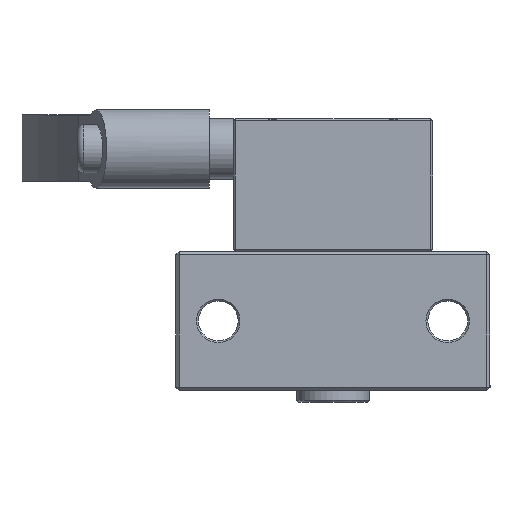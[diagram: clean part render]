
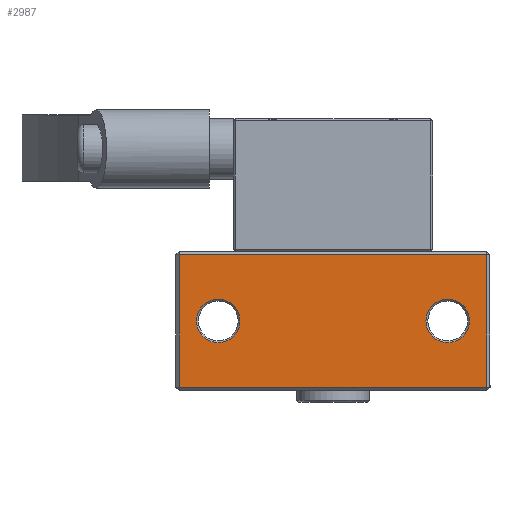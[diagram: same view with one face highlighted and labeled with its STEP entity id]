
A CAD part, front view. The second image highlights one B-rep face of the part: STEP entity #2987.
In plain terms, the highlighted planar face has unit normal (0, -1, 0).
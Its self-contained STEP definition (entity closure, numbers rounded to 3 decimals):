
#139 = CIRCLE ( 'NONE', #1693, 3.6 ) ;
#163 = LINE ( 'NONE', #5738, #3420 ) ;
#317 = DIRECTION ( 'NONE',  ( 0., 0., -1. ) ) ;
#416 = FACE_OUTER_BOUND ( 'NONE', #3173, .T. ) ;
#626 = EDGE_CURVE ( 'NONE', #4319, #5006, #8125, .T. ) ;
#703 = VERTEX_POINT ( 'NONE', #11001 ) ;
#887 = EDGE_LOOP ( 'NONE', ( #4115, #3374 ) ) ;
#1038 = AXIS2_PLACEMENT_3D ( 'NONE', #3991, #2067, #4895 ) ;
#1180 = CARTESIAN_POINT ( 'NONE',  ( 19., -17., 0. ) ) ;
#1457 = VECTOR ( 'NONE', #317, 1000. ) ;
#1467 = CARTESIAN_POINT ( 'NONE',  ( -25.5, -17., 11.5 ) ) ;
#1507 = DIRECTION ( 'NONE',  ( -1., 0., 0. ) ) ;
#1651 = ORIENTED_EDGE ( 'NONE', *, *, #6679, .T. ) ;
#1693 = AXIS2_PLACEMENT_3D ( 'NONE', #2166, #11543, #1507 ) ;
#1716 = CARTESIAN_POINT ( 'NONE',  ( -25.5, -17., 11. ) ) ;
#1824 = CARTESIAN_POINT ( 'NONE',  ( 19., -17., 0. ) ) ;
#1869 = VERTEX_POINT ( 'NONE', #10087 ) ;
#2067 = DIRECTION ( 'NONE',  ( 0., 1., 0. ) ) ;
#2097 = EDGE_CURVE ( 'NONE', #5006, #4319, #4526, .T. ) ;
#2166 = CARTESIAN_POINT ( 'NONE',  ( -19., -17., 0. ) ) ;
#2342 = DIRECTION ( 'NONE',  ( 0., 0., 1. ) ) ;
#2528 = EDGE_CURVE ( 'NONE', #9815, #1869, #6814, .T. ) ;
#2565 = EDGE_CURVE ( 'NONE', #7154, #703, #10460, .T. ) ;
#2987 = ADVANCED_FACE ( 'NONE', ( #5987, #8566, #416 ), #5867, .F. ) ;
#3173 = EDGE_LOOP ( 'NONE', ( #6089, #11802, #10630, #7516 ) ) ;
#3374 = ORIENTED_EDGE ( 'NONE', *, *, #2097, .T. ) ;
#3394 = CARTESIAN_POINT ( 'NONE',  ( 19., -17., -3.6 ) ) ;
#3420 = VECTOR ( 'NONE', #6626, 1000. ) ;
#3575 = AXIS2_PLACEMENT_3D ( 'NONE', #1180, #7518, #4864 ) ;
#3753 = VECTOR ( 'NONE', #5203, 1000. ) ;
#3991 = CARTESIAN_POINT ( 'NONE',  ( 26., -17., 11.5 ) ) ;
#4092 = CARTESIAN_POINT ( 'NONE',  ( 25.5, -17., 11.5 ) ) ;
#4115 = ORIENTED_EDGE ( 'NONE', *, *, #626, .T. ) ;
#4317 = EDGE_CURVE ( 'NONE', #11159, #7154, #11667, .T. ) ;
#4319 = VERTEX_POINT ( 'NONE', #3394 ) ;
#4526 = CIRCLE ( 'NONE', #3575, 3.6 ) ;
#4602 = EDGE_CURVE ( 'NONE', #5481, #11159, #6874, .T. ) ;
#4864 = DIRECTION ( 'NONE',  ( -1., 0., 0. ) ) ;
#4895 = DIRECTION ( 'NONE',  ( 1., 0., 0. ) ) ;
#5006 = VERTEX_POINT ( 'NONE', #11889 ) ;
#5044 = CARTESIAN_POINT ( 'NONE',  ( 25.5, -17., 11. ) ) ;
#5203 = DIRECTION ( 'NONE',  ( -1., 0., 0. ) ) ;
#5481 = VERTEX_POINT ( 'NONE', #10015 ) ;
#5738 = CARTESIAN_POINT ( 'NONE',  ( 26., -17., -11. ) ) ;
#5867 = PLANE ( 'NONE',  #1038 ) ;
#5987 = FACE_BOUND ( 'NONE', #887, .T. ) ;
#5999 = DIRECTION ( 'NONE',  ( -1., 0., 0. ) ) ;
#6089 = ORIENTED_EDGE ( 'NONE', *, *, #2565, .T. ) ;
#6626 = DIRECTION ( 'NONE',  ( 1., 0., 0. ) ) ;
#6679 = EDGE_CURVE ( 'NONE', #1869, #9815, #139, .T. ) ;
#6814 = CIRCLE ( 'NONE', #7399, 3.6 ) ;
#6874 = LINE ( 'NONE', #4092, #8950 ) ;
#7154 = VERTEX_POINT ( 'NONE', #1716 ) ;
#7310 = DIRECTION ( 'NONE',  ( 0., 1., 0. ) ) ;
#7371 = CARTESIAN_POINT ( 'NONE',  ( -19., -17., -3.6 ) ) ;
#7399 = AXIS2_PLACEMENT_3D ( 'NONE', #10092, #11439, #5999 ) ;
#7516 = ORIENTED_EDGE ( 'NONE', *, *, #4317, .T. ) ;
#7518 = DIRECTION ( 'NONE',  ( 0., 1., 0. ) ) ;
#7551 = DIRECTION ( 'NONE',  ( -1., 0., 0. ) ) ;
#8111 = EDGE_LOOP ( 'NONE', ( #10715, #1651 ) ) ;
#8125 = CIRCLE ( 'NONE', #10640, 3.6 ) ;
#8566 = FACE_BOUND ( 'NONE', #8111, .T. ) ;
#8925 = CARTESIAN_POINT ( 'NONE',  ( 26., -17., 11. ) ) ;
#8950 = VECTOR ( 'NONE', #2342, 1000. ) ;
#9409 = EDGE_CURVE ( 'NONE', #703, #5481, #163, .T. ) ;
#9815 = VERTEX_POINT ( 'NONE', #7371 ) ;
#10015 = CARTESIAN_POINT ( 'NONE',  ( 25.5, -17., -11. ) ) ;
#10087 = CARTESIAN_POINT ( 'NONE',  ( -19., -17., 3.6 ) ) ;
#10092 = CARTESIAN_POINT ( 'NONE',  ( -19., -17., 0. ) ) ;
#10460 = LINE ( 'NONE', #1467, #1457 ) ;
#10630 = ORIENTED_EDGE ( 'NONE', *, *, #4602, .T. ) ;
#10640 = AXIS2_PLACEMENT_3D ( 'NONE', #1824, #7310, #7551 ) ;
#10715 = ORIENTED_EDGE ( 'NONE', *, *, #2528, .T. ) ;
#11001 = CARTESIAN_POINT ( 'NONE',  ( -25.5, -17., -11. ) ) ;
#11159 = VERTEX_POINT ( 'NONE', #5044 ) ;
#11439 = DIRECTION ( 'NONE',  ( 0., 1., 0. ) ) ;
#11543 = DIRECTION ( 'NONE',  ( 0., 1., 0. ) ) ;
#11667 = LINE ( 'NONE', #8925, #3753 ) ;
#11802 = ORIENTED_EDGE ( 'NONE', *, *, #9409, .T. ) ;
#11889 = CARTESIAN_POINT ( 'NONE',  ( 19., -17., 3.6 ) ) ;
